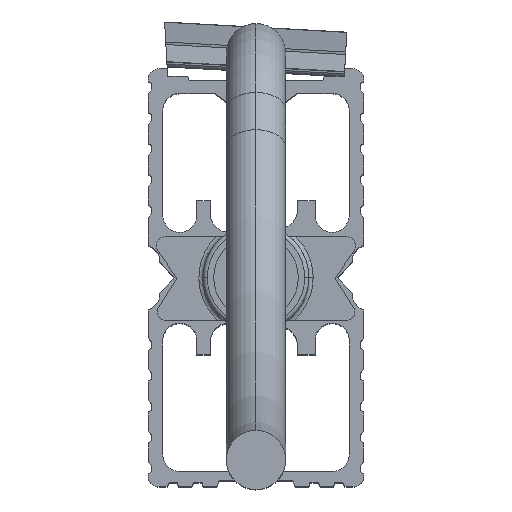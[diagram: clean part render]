
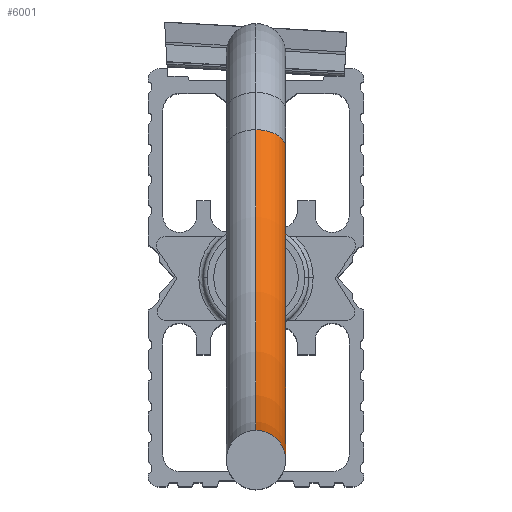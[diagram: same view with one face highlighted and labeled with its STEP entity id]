
A CAD part, top view. The second image highlights one B-rep face of the part: STEP entity #6001.
In plain terms, the highlighted toroidal (fillet/blend) face has major radius 90 mm and minor radius 3.5 mm.
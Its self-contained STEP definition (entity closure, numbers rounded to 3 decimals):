
#482 = CIRCLE ( 'NONE', #4534, 86.5 ) ;
#614 = DIRECTION ( 'NONE',  ( 0., 0., -1. ) ) ;
#923 = AXIS2_PLACEMENT_3D ( 'NONE', #5188, #5762, #1747 ) ;
#1064 = CIRCLE ( 'NONE', #6090, 3.5 ) ;
#1156 = ORIENTED_EDGE ( 'NONE', *, *, #7235, .T. ) ;
#1200 = CIRCLE ( 'NONE', #923, 3.5 ) ;
#1301 = CARTESIAN_POINT ( 'NONE',  ( -36.075, -3.666, 82.909 ) ) ;
#1747 = DIRECTION ( 'NONE',  ( 0., 0.588, 0.809 ) ) ;
#1793 = CARTESIAN_POINT ( 'NONE',  ( -36.075, -42.208, 158.552 ) ) ;
#2946 = FACE_OUTER_BOUND ( 'NONE', #3247, .T. ) ;
#3247 = EDGE_LOOP ( 'NONE', ( #7563, #1156, #7673, #5814 ) ) ;
#3401 = EDGE_CURVE ( 'NONE', #5361, #5480, #1064, .T. ) ;
#3516 = VERTEX_POINT ( 'NONE', #4746 ) ;
#4065 = DIRECTION ( 'NONE',  ( 1., 0., 0. ) ) ;
#4248 = CARTESIAN_POINT ( 'NONE',  ( -36.075, 51.292, 158.552 ) ) ;
#4534 = AXIS2_PLACEMENT_3D ( 'NONE', #4809, #4065, #8157 ) ;
#4549 = AXIS2_PLACEMENT_3D ( 'NONE', #6648, #8373, #614 ) ;
#4693 = CIRCLE ( 'NONE', #4549, 93.5 ) ;
#4746 = CARTESIAN_POINT ( 'NONE',  ( -36.075, 0.448, 88.572 ) ) ;
#4809 = CARTESIAN_POINT ( 'NONE',  ( -36.075, 51.292, 158.552 ) ) ;
#5028 = CARTESIAN_POINT ( 'NONE',  ( -36.075, -35.208, 158.552 ) ) ;
#5188 = CARTESIAN_POINT ( 'NONE',  ( -36.075, -1.609, 85.74 ) ) ;
#5361 = VERTEX_POINT ( 'NONE', #5028 ) ;
#5474 = EDGE_CURVE ( 'NONE', #3516, #5682, #1200, .T. ) ;
#5480 = VERTEX_POINT ( 'NONE', #1793 ) ;
#5682 = VERTEX_POINT ( 'NONE', #1301 ) ;
#5762 = DIRECTION ( 'NONE',  ( 0., 0.809, -0.588 ) ) ;
#5814 = ORIENTED_EDGE ( 'NONE', *, *, #6280, .F. ) ;
#6001 = ADVANCED_FACE ( 'NONE', ( #2946 ), #8580, .T. ) ;
#6090 = AXIS2_PLACEMENT_3D ( 'NONE', #8474, #8605, #6442 ) ;
#6280 = EDGE_CURVE ( 'NONE', #5361, #3516, #482, .T. ) ;
#6392 = DIRECTION ( 'NONE',  ( 1., 0., 0. ) ) ;
#6442 = DIRECTION ( 'NONE',  ( 0., 1., 0. ) ) ;
#6648 = CARTESIAN_POINT ( 'NONE',  ( -36.075, 51.292, 158.552 ) ) ;
#7235 = EDGE_CURVE ( 'NONE', #5480, #5682, #4693, .T. ) ;
#7334 = AXIS2_PLACEMENT_3D ( 'NONE', #4248, #6392, #8333 ) ;
#7563 = ORIENTED_EDGE ( 'NONE', *, *, #3401, .T. ) ;
#7673 = ORIENTED_EDGE ( 'NONE', *, *, #5474, .F. ) ;
#8157 = DIRECTION ( 'NONE',  ( 0., 0., -1. ) ) ;
#8333 = DIRECTION ( 'NONE',  ( 0., 0., -1. ) ) ;
#8373 = DIRECTION ( 'NONE',  ( 1., 0., 0. ) ) ;
#8474 = CARTESIAN_POINT ( 'NONE',  ( -36.075, -38.708, 158.552 ) ) ;
#8580 = TOROIDAL_SURFACE ( 'NONE', #7334, 90., 3.5 ) ;
#8605 = DIRECTION ( 'NONE',  ( 0., 0., -1. ) ) ;
